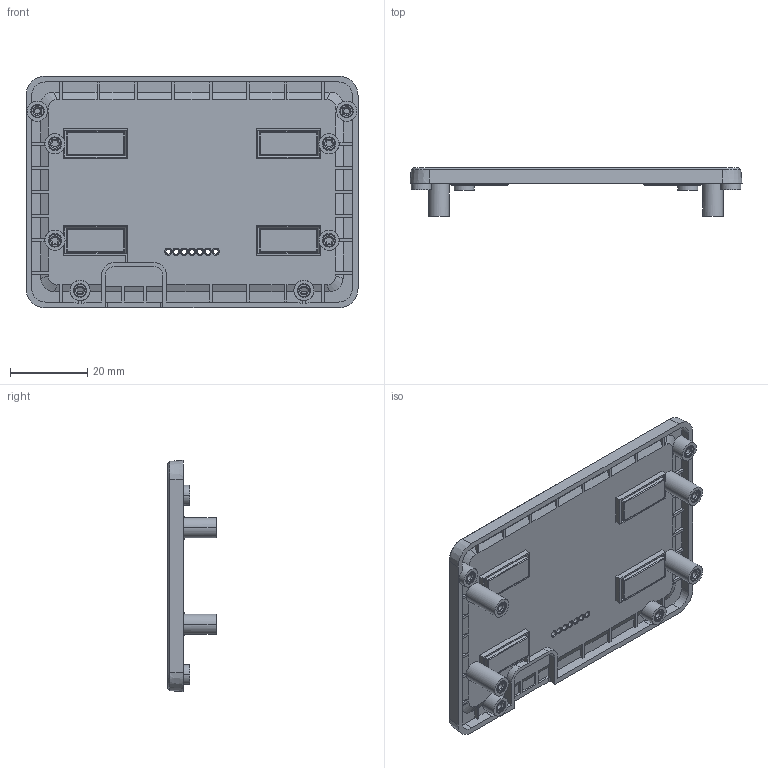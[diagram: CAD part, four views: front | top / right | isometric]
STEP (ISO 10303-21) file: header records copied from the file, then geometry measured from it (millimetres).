
FILE_DESCRIPTION((''),'2;1');
FILE_NAME('STATION_TOP_ASM','2024-06-03T15:27:39',('Roy'),(''),'CREO PARAMETRIC BY PTC INC, 2019224','CREO PARAMETRIC BY PTC INC, 2019224','');
FILE_SCHEMA(('AUTOMOTIVE_DESIGN { 1 0 10303 214 1 1 1 1 }'));
Length unit declared in the file: millimetre
Products named in the file (5): PMMA_A; N52_1_1; M2_10; M2_8; STATION_TOP_ASM
Assembly tree (13 placements, depth 2):
  STATION_TOP_ASM
    PMMA_A
    N52_1_1  x4
    M2_10  x4
    M2_8  x4
Bounding box: 86 x 12.5 x 60 mm (x, y, z)
Volume: 10018.4 mm3; surface area: 15774.9 mm2
Topology: 13 solids, 13 shells, 681 faces, 1696 edges, 1068 vertices
Faces by surface type: plane 350, cylinder 152, cone 76, extrusion 47, sphere 32, bspline 16, torus 8
Entity records: 18861 total; most frequent: CARTESIAN_POINT 4751, ORIENTED_EDGE 2864, DIRECTION 2629, EDGE_CURVE 1432, VECTOR 1017, LINE 970, VERTEX_POINT 924, AXIS2_PLACEMENT_3D 806
